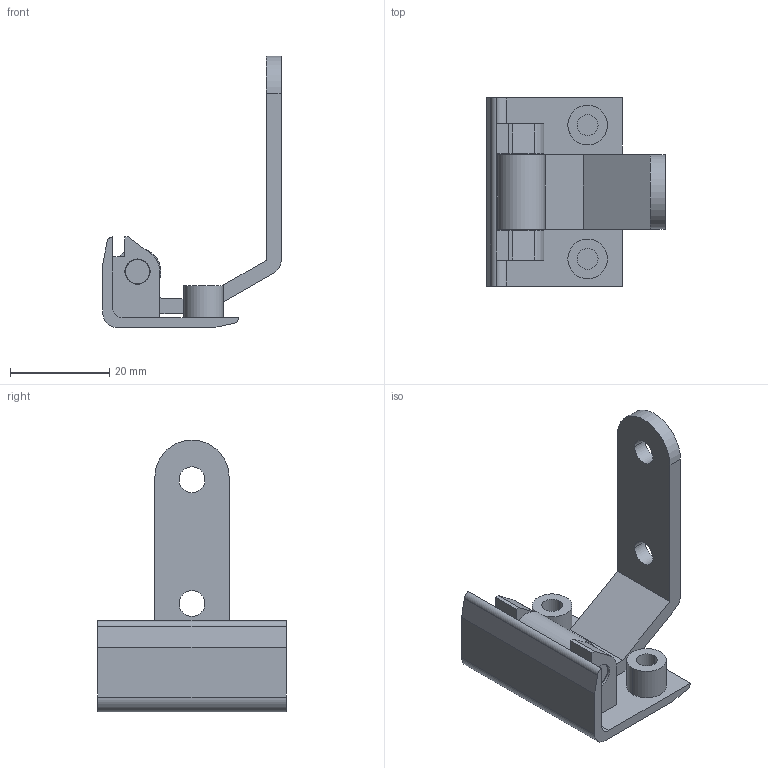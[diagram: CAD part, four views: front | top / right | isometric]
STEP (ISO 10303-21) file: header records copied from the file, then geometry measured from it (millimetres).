
FILE_DESCRIPTION(/* description */ (''),/* implementation_level */ '2;1');
FILE_NAME(/* name */ 'JL015-2',/* time_stamp */ '2024-10-19T08:15:15+08:00',/* author */ (''),/* organization */ (''),/* preprocessor_version */ 'ST-DEVELOPER v19.2',/* originating_system */ 'Rhino 8.5',/* authorisation */ '');
FILE_SCHEMA (('CONFIG_CONTROL_DESIGN'));
Length unit declared in the file: millimetre
Products named in the file (1): Document
Bounding box: 36 x 38 x 54.86 mm (x, y, z)
Volume: 9115.4 mm3; surface area: 8480.2 mm2
Topology: 3 solids, 3 shells, 272 faces, 716 edges, 454 vertices
Faces by surface type: cylinder 165, plane 105, bspline 2
Entity records: 9393 total; most frequent: CARTESIAN_POINT 2660, ORIENTED_EDGE 1432, DIRECTION 1194, AXIS2_PLACEMENT_3D 730, EDGE_CURVE 716, TRIMMED_CURVE 462, CIRCLE 462, VERTEX_POINT 454
